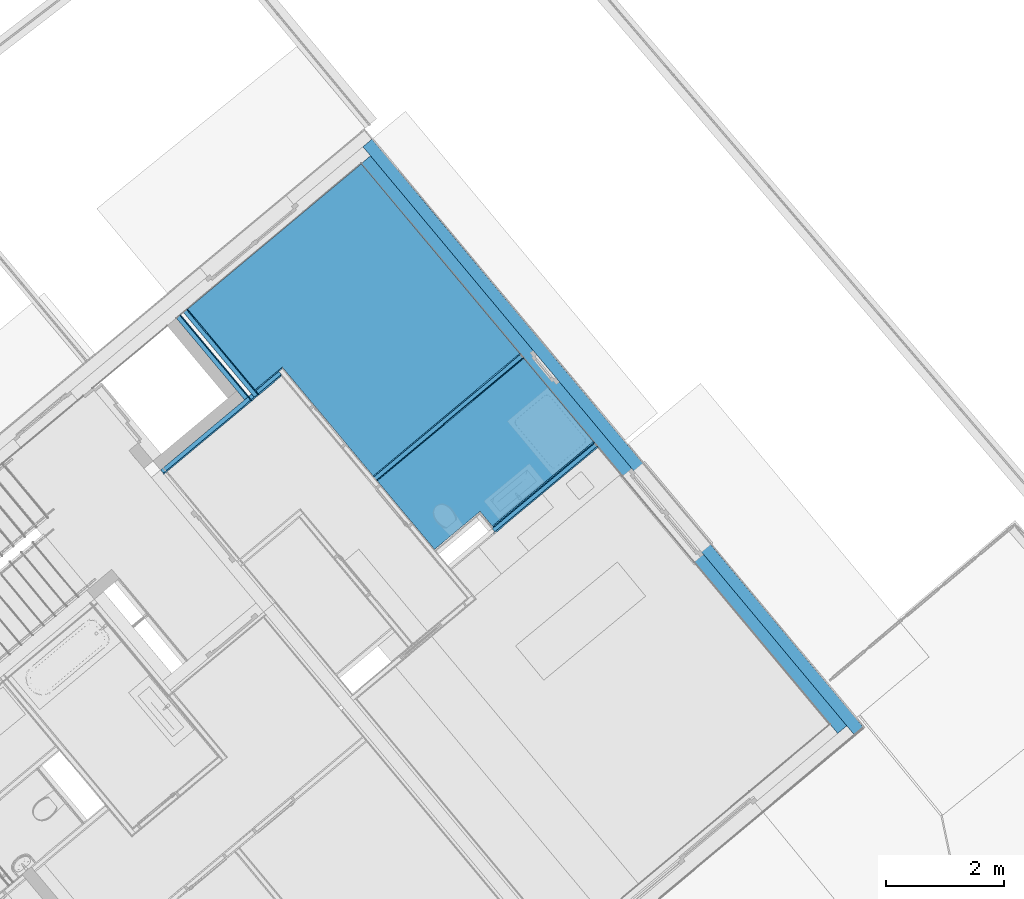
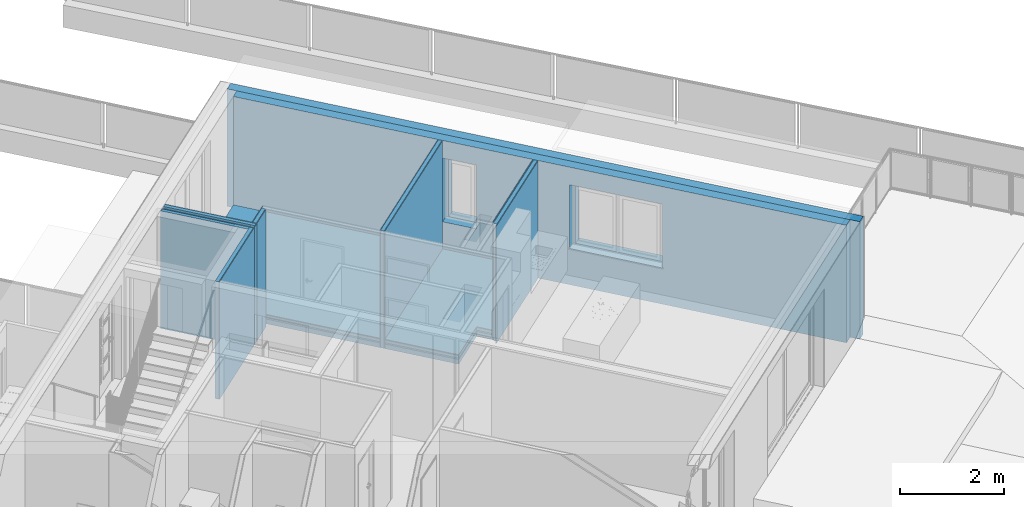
# One storey, part 45 of 67: 28 building element parts, 2 openings, 10 elements without a shape of their own.
"""IFC4 building model written with IfcOpenShell, lengths in metres."""

import ifcopenshell
import ifcopenshell.guid

model = None  # the IFC model being written
_history = None  # IfcOwnerHistory: only IFC2X3 demands one
_inside = {}  # id of a spatial element -> (the spatial element, [elements in it])
_under = {}  # id of a project, library or spatial element -> (it, [spatial elements below it])
_declared = {}  # id of a project -> (the project, [libraries it declares])
_typed = {}  # id of a type object -> (the type object, [elements of that type])
_made_of = {}  # id of a material, layer set ... -> (it, [elements and type objects made of it])


def new_model(schema):
    """Start an empty IFC model of exactly this schema.

    Asked for "IFC4X3", IfcOpenShell would pick the latest addendum, in which some entities
    have other attributes; the version numbers below select the first issue.
    IFC2X3 requires an IfcOwnerHistory on every rooted entity: one is made here for all.
    """
    global model, _history
    if schema == "IFC4X3":
        model = ifcopenshell.file(schema_version=(4, 3, 0, 0))
    else:
        model = ifcopenshell.file(schema=schema)
    _inside.clear()
    _under.clear()
    _declared.clear()
    _typed.clear()
    _made_of.clear()
    _history = None
    if model.schema == "IFC2X3":
        org = make("IfcOrganization", Name="unknown")
        user = make(
            "IfcPersonAndOrganization",
            ThePerson=make("IfcPerson", FamilyName="unknown"),
            TheOrganization=org,
        )
        app = make(
            "IfcApplication",
            ApplicationDeveloper=org,
            Version="unknown",
            ApplicationFullName="unknown",
            ApplicationIdentifier="unknown",
        )
        _history = make(
            "IfcOwnerHistory",
            OwningUser=user,
            OwningApplication=app,
            ChangeAction="ADDED",
            CreationDate=0,
        )
    return model


def make(cls, **values):
    """One entity of the class cls with the attributes given. An attribute that is None is left unset."""
    return model.create_entity(
        cls, **{name: value for name, value in values.items() if value is not None}
    )


def entity(cls, *values):
    """Any entity or typed value of the class cls, its attributes in the order of the schema. None: left unset."""
    e = model.create_entity(cls)
    for i, value in enumerate(values):
        if value is not None:
            e[i] = value
    return e


def rooted(cls, **values):
    """An entity with a GlobalId (a new one), such as an element, a storey or a relation."""
    return make(cls, GlobalId=ifcopenshell.guid.new(), OwnerHistory=_history, **values)


def si_unit(unit_type, name, prefix=None):
    """IfcSIUnit, for example si_unit("LENGTHUNIT", "METRE", prefix="MILLI")."""
    return make("IfcSIUnit", UnitType=unit_type, Prefix=prefix, Name=name)


def converted_unit(unit_type, name, factor, base, dimensions=None, offset=None):
    """IfcConversionBasedUnit, such as the inch: factor (a typed value) times the base unit."""
    return make(
        "IfcConversionBasedUnit"
        if offset is None
        else "IfcConversionBasedUnitWithOffset",
        ConversionOffset=offset,
        Dimensions=None
        if dimensions is None
        else entity("IfcDimensionalExponents", *dimensions),
        UnitType=unit_type,
        Name=name,
        ConversionFactor=make(
            "IfcMeasureWithUnit", ValueComponent=factor, UnitComponent=base
        ),
    )


def derived_unit(unit_type, elements):
    """IfcDerivedUnit: a product of units, each with its exponent."""
    return make(
        "IfcDerivedUnit",
        Elements=[
            make("IfcDerivedUnitElement", Unit=unit, Exponent=power)
            for unit, power in elements
        ],
        UnitType=unit_type,
    )


def assignment(units):
    """IfcUnitAssignment: the units of a project."""
    return None if units is None else make("IfcUnitAssignment", Units=units)


def point(xyz):
    """IfcCartesianPoint."""
    return None if xyz is None else make("IfcCartesianPoint", Coordinates=xyz)


def direction(xyz):
    """IfcDirection."""
    return None if xyz is None else make("IfcDirection", DirectionRatios=xyz)


def frame(location, z_axis=None, x_axis=None):
    """IfcAxis2Placement3D, a coordinate frame: its origin and axes. An axis left out is left unset."""
    return make(
        "IfcAxis2Placement3D",
        Location=point(location),
        Axis=direction(z_axis),
        RefDirection=direction(x_axis),
    )


def origin_with_axes():
    """The frame at (0, 0, 0) with the z axis (0, 0, 1) and the x axis (1, 0, 0) written out."""
    return frame((0.0, 0.0, 0.0), z_axis=(0.0, 0.0, 1.0), x_axis=(1.0, 0.0, 0.0))


def place(relative_to, where):
    """IfcLocalPlacement: puts the frame where relative to a parent placement (None: the world)."""
    return make(
        "IfcLocalPlacement", PlacementRelTo=relative_to, RelativePlacement=where
    )


def context(
    kind, dimensions, precision=None, world=None, true_north=None, identifier=None
):
    """IfcGeometricRepresentationContext, for example the 3D "Model" context."""
    return make(
        "IfcGeometricRepresentationContext",
        ContextIdentifier=identifier,
        ContextType=kind,
        CoordinateSpaceDimension=dimensions,
        Precision=precision,
        WorldCoordinateSystem=world,
        TrueNorth=true_north,
    )


def subcontext(parent, identifier, kind, view, scale=None):
    """IfcGeometricRepresentationSubContext, for example "Body" below "Model"."""
    return make(
        "IfcGeometricRepresentationSubContext",
        ContextIdentifier=identifier,
        ContextType=kind,
        ParentContext=parent,
        TargetScale=scale,
        TargetView=view,
    )


def project(units=None, contexts=None):
    """IfcProject with its units and contexts."""
    return rooted(
        "IfcProject",
        Name="project",
        RepresentationContexts=contexts,
        UnitsInContext=assignment(units),
    )


def spatial(cls, under=None, at=None, **own):
    """A site, building, storey or space (cls), placed at a placement, below another one or the project."""
    s = rooted(cls, ObjectPlacement=at, **own)
    if under is not None:
        _under.setdefault(under.id(), (under, []))[1].append(s)
    return s


def point_list(points):
    """IfcCartesianPointList2D or 3D."""
    cls = (
        "IfcCartesianPointList2D" if len(points[0]) == 2 else "IfcCartesianPointList3D"
    )
    return make(cls, CoordList=points)


def polygons(points, faces, closed=None, point_numbers=None):
    """IfcPolygonalFaceSet: a face is its outer loop, then its inner loops; points numbered from 1."""
    made = []
    for loops in faces:
        if len(loops) == 1:
            made.append(make("IfcIndexedPolygonalFace", CoordIndex=loops[0]))
        else:
            made.append(
                make(
                    "IfcIndexedPolygonalFaceWithVoids",
                    CoordIndex=loops[0],
                    InnerCoordIndices=loops[1:],
                )
            )
    return make(
        "IfcPolygonalFaceSet",
        Coordinates=point_list(points),
        Closed=closed,
        Faces=made,
        PnIndex=point_numbers,
    )


def shape(context_of_items, identifier, shape_type, items):
    """IfcShapeRepresentation: the items that make up one representation, for example the "Body"."""
    return make(
        "IfcShapeRepresentation",
        ContextOfItems=context_of_items,
        RepresentationIdentifier=identifier,
        RepresentationType=shape_type,
        Items=items,
    )


def material(Name=None, Category=None):
    """IfcMaterial."""
    return make("IfcMaterial", Name=Name, Category=Category)


def made_of(thing, what):
    """Note that an element or type object is made of a material, layer set ...; save() writes the relation."""
    if what is not None:
        _made_of.setdefault(what.id(), (what, []))[1].append(thing)
    return thing


def type_object(cls, material=None, **own):
    """A type object (cls), such as IfcWallType, which elements share."""
    return made_of(rooted(cls, **own), material)


def element(
    cls,
    number,
    at=None,
    inside=None,
    cuts=None,
    type_object=None,
    material=None,
    context=None,
    identifier="Body",
    shape_type=None,
    held_by="IfcProductDefinitionShape",
    body=None,
    shapes=None,
    **own,
):
    """One element of the class cls, such as IfcWall. Its Tag is "e" and its number.

    at: its placement. inside: the storey or other place that contains it. cuts: it is an
    opening in that element (IfcRelVoidsElement). A single representation is given by context,
    identifier, shape_type and body (its items); several are given by shapes. held_by: the class
    of the entity that holds the representations. save() writes the other relations.
    """
    e = rooted(cls, Tag="e%d" % number, ObjectPlacement=at, **own)
    if body is not None:
        shapes = [shape(context, identifier, shape_type, body)]
    if shapes is not None:
        e.Representation = make(held_by, Representations=shapes)
    if inside is not None:
        _inside.setdefault(inside.id(), (inside, []))[1].append(e)
    if cuts is not None:
        rooted(
            "IfcRelVoidsElement", RelatingBuildingElement=cuts, RelatedOpeningElement=e
        )
    if type_object is not None:
        _typed.setdefault(type_object.id(), (type_object, []))[1].append(e)
    return made_of(e, material)


def aggregate(whole, parts):
    """IfcRelAggregates: a whole, such as a stair, and the parts it consists of."""
    return rooted("IfcRelAggregates", RelatingObject=whole, RelatedObjects=parts)


def save(model, path):
    """Write the relations noted so far, then the file.

    IfcRelAggregates (storeys below a building ...), IfcRelContainedInSpatialStructure (elements
    in a storey), IfcRelDefinesByType, IfcRelAssociatesMaterial and IfcRelDeclares: one each for
    every whole, place, type object, material and project.
    """
    for whole, parts in _under.values():
        aggregate(whole, parts)
    for where, things in _inside.values():
        rooted(
            "IfcRelContainedInSpatialStructure",
            RelatedElements=things,
            RelatingStructure=where,
        )
    for kind, things in _typed.values():
        rooted("IfcRelDefinesByType", RelatedObjects=things, RelatingType=kind)
    for what, things in _made_of.values():
        rooted("IfcRelAssociatesMaterial", RelatedObjects=things, RelatingMaterial=what)
    for by, libraries in _declared.values():
        rooted("IfcRelDeclares", RelatingContext=by, RelatedDefinitions=libraries)
    model.write(path)


model = new_model("IFC4")

# Units and contexts
model_context = context("Model", 3, precision=1e-05, world=origin_with_axes(), true_north=direction((0.0, 1.0)))
body_context = subcontext(model_context, "Body", "Model", "MODEL_VIEW")
ifc_project = project(units=[si_unit("LENGTHUNIT", "METRE"), si_unit("AREAUNIT", "SQUARE_METRE"), si_unit("VOLUMEUNIT", "CUBIC_METRE"), converted_unit("PLANEANGLEUNIT", "DEGREE", entity("IfcPlaneAngleMeasure", 0.0174532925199), si_unit("PLANEANGLEUNIT", "RADIAN"), dimensions=[0, 0, 0, 0, 0, 0, 0]), converted_unit("TIMEUNIT", "Year", entity("IfcTimeMeasure", 31556926.0), si_unit("TIMEUNIT", "SECOND"), dimensions=[0, 0, 1, 0, 0, 0, 0]), si_unit("MASSUNIT", "GRAM", prefix="KILO"), si_unit("THERMODYNAMICTEMPERATUREUNIT", "DEGREE_CELSIUS"), si_unit("LUMINOUSINTENSITYUNIT", "LUMEN"), si_unit("ENERGYUNIT", "JOULE", prefix="MEGA"), derived_unit("THERMALCONDUCTANCEUNIT", [(si_unit("POWERUNIT", "WATT"), 1), (si_unit("LENGTHUNIT", "METRE"), -1), (si_unit("THERMODYNAMICTEMPERATUREUNIT", "KELVIN"), -1)]), derived_unit("SPECIFICHEATCAPACITYUNIT", [(si_unit("ENERGYUNIT", "JOULE"), 1), (si_unit("MASSUNIT", "GRAM", prefix="KILO"), -1), (si_unit("THERMODYNAMICTEMPERATUREUNIT", "KELVIN"), -1)]), derived_unit("MASSDENSITYUNIT", [(si_unit("MASSUNIT", "GRAM", prefix="KILO"), 1), (si_unit("VOLUMEUNIT", "CUBIC_METRE"), -1)])], contexts=[model_context])

# Site, building, storey
site_placement = place(None, frame((-0.00153261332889, -0.00661245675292, 0.0), z_axis=(0.0, 0.0, 1.0), x_axis=(1.0, 0.0, 0.0)))
site = spatial("IfcSite", under=ifc_project, at=site_placement, Name="Site", CompositionType="ELEMENT")
building_placement = place(site_placement, origin_with_axes())
building = spatial("IfcBuilding", under=site, at=building_placement, Name="Building", CompositionType="ELEMENT")
storey_placement = place(building_placement, frame((0.0, 0.0, -0.22), z_axis=(0.0, 0.0, 1.0), x_axis=(1.0, 0.0, 0.0)))
storey = spatial("IfcBuildingStorey", under=building, at=storey_placement, Name="EG", CompositionType="ELEMENT", Elevation=-0.22)

# Wall, building element parts
wall_type_1 = type_object("IfcWallType", Name="LB 9,0 cm einfache Vorsatzschale  90", PredefinedType="NOTDEFINED")
wall_1_placement = place(storey_placement, frame((2.91105147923, 25.8183705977, 0.0), z_axis=(0.0, 0.0, 1.0), x_axis=(-0.641215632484, 0.767360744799, 0.0)))
wall_1 = element("IfcWall", 1, at=wall_1_placement, inside=storey, type_object=wall_type_1, Name="Wand-006", PredefinedType="NOTDEFINED")
ifc_material_1 = material(Name="Mineralwolle weich")
building_element_part_1_placement = place(wall_1_placement, origin_with_axes())
building_element_part_1 = element("IfcBuildingElementPart", 2, at=building_element_part_1_placement, material=ifc_material_1, Name="Mineralwolle weich", PredefinedType="NOTDEFINED", context=body_context, shape_type="Tessellation", body=[
    polygons([(1.79614364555, -0.075, 2.76), (6.98080551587e-07, -0.075, 2.76), (6.98080551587e-07, -0.075, 0.0), (1.79614364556, -0.075, 0.0), (0.0, 0.0, 2.76), (1.79614424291, 0.0, 2.76), (0.0, 0.0, 0.0), (1.79614424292, 0.0, 0.0)], [[[1, 2, 3, 4]], [[5, 2, 1, 6]], [[2, 5, 7, 3]], [[7, 8, 4, 3]], [[6, 1, 4, 8]], [[5, 6, 8, 7]]], closed=True),
])
ifc_material_2 = material(Name="Gipskarton")
building_element_part_2_placement = place(wall_1_placement, origin_with_axes())
building_element_part_2 = element("IfcBuildingElementPart", 3, at=building_element_part_2_placement, material=ifc_material_2, Name="Gipskarton", PredefinedType="NOTDEFINED", context=body_context, shape_type="Tessellation", body=[
    polygons([(1.79614352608, -0.09, 2.76), (-0.0749991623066, -0.09, 2.76), (-0.0749991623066, -0.09, 0.0), (1.79614352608, -0.09, 0.0), (-0.0749993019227, -0.075, 2.76), (1.79614364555, -0.075, 2.76), (-0.0749993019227, -0.075, 0.0), (1.79614364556, -0.075, 0.0)], [[[1, 2, 3, 4]], [[5, 2, 1, 6]], [[2, 5, 7, 3]], [[7, 8, 4, 3]], [[6, 1, 4, 8]], [[5, 6, 8, 7]]], closed=True),
])
aggregate(wall_1, [building_element_part_1, building_element_part_2])

wall_2_placement = place(storey_placement, frame((1.49097783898, 24.6317179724, 0.0), z_axis=(0.0, 0.0, 1.0), x_axis=(0.767354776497, 0.641222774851, 0.0)))
wall_2 = element("IfcWall", 4, at=wall_2_placement, inside=storey, type_object=wall_type_1, Name="Wand-006", PredefinedType="NOTDEFINED")
building_element_part_3_placement = place(wall_2_placement, origin_with_axes())
building_element_part_3 = element("IfcBuildingElementPart", 5, at=building_element_part_3_placement, material=ifc_material_1, Name="Mineralwolle weich", PredefinedType="NOTDEFINED", context=body_context, shape_type="Tessellation", body=[
    polygons([(1.92560898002, 0.0, 2.76), (1.92560828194, -0.075, 2.76), (1.92560828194, -0.075, 0.0), (1.92560898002, 0.0, 0.0), (0.0, -0.075, 2.76), (0.0, 0.0, 2.76), (0.0, -0.075, 0.0), (0.0, 0.0, 0.0)], [[[1, 2, 3, 4]], [[5, 2, 1, 6]], [[2, 5, 7, 3]], [[4, 3, 7, 8]], [[6, 1, 4, 8]], [[5, 6, 8, 7]]], closed=True),
])
building_element_part_4_placement = place(wall_2_placement, origin_with_axes())
building_element_part_4 = element("IfcBuildingElementPart", 6, at=building_element_part_4_placement, material=ifc_material_2, Name="Gipskarton", PredefinedType="NOTDEFINED", context=body_context, shape_type="Tessellation", body=[
    polygons([(1.94060828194, -0.075, 2.76), (1.94060814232, -0.09, 2.76), (1.94060814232, -0.09, 0.0), (1.94060828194, -0.075, 0.0), (0.0, -0.09, 2.76), (0.0, -0.075, 2.76), (0.0, -0.09, 0.0), (0.0, -0.075, 0.0)], [[[1, 2, 3, 4]], [[5, 2, 1, 6]], [[2, 5, 7, 3]], [[4, 3, 7, 8]], [[6, 1, 4, 8]], [[5, 6, 8, 7]]], closed=True),
])
aggregate(wall_2, [building_element_part_3, building_element_part_4])

wall_3_placement = place(storey_placement, frame((2.98011276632, 25.8760801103, 0.0), z_axis=(0.0, 0.0, 1.0), x_axis=(0.767354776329, 0.641222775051, 0.0)))
wall_3 = element("IfcWall", 7, at=wall_3_placement, inside=storey, type_object=wall_type_1, Name="Wand-006", PredefinedType="NOTDEFINED")
building_element_part_5_placement = place(wall_3_placement, origin_with_axes())
building_element_part_5 = element("IfcBuildingElementPart", 8, at=building_element_part_5_placement, material=ifc_material_1, Name="Mineralwolle weich", PredefinedType="NOTDEFINED", context=body_context, shape_type="Tessellation", body=[
    polygons([(0.0647565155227, 0.0, 2.76), (0.0647552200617, -0.075, 2.76), (0.0647552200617, -0.075, 0.0), (0.0647565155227, 0.0, 0.0), (0.0, -0.075, 2.76), (0.0, 0.0, 2.76), (0.0, -0.075, 0.0), (0.0, 0.0, 0.0)], [[[1, 2, 3, 4]], [[5, 2, 1, 6]], [[2, 5, 7, 3]], [[4, 3, 7, 8]], [[6, 1, 4, 8]], [[5, 6, 8, 7]]], closed=True),
])
building_element_part_6_placement = place(wall_3_placement, origin_with_axes())
building_element_part_6 = element("IfcBuildingElementPart", 9, at=building_element_part_6_placement, material=ifc_material_2, Name="Gipskarton", PredefinedType="NOTDEFINED", context=body_context, shape_type="Tessellation", body=[
    polygons([(0.139755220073, -0.075, 2.76), (0.139754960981, -0.09, 2.76), (0.139754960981, -0.09, 0.0), (0.139755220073, -0.075, 0.0), (0.0, -0.09, 2.76), (0.0, -0.075, 2.76), (0.0, -0.09, 0.0), (0.0, -0.075, 0.0)], [[[1, 2, 3, 4]], [[5, 2, 1, 6]], [[2, 5, 7, 3]], [[4, 3, 7, 8]], [[6, 1, 4, 8]], [[5, 6, 8, 7]]], closed=True),
])
aggregate(wall_3, [building_element_part_5, building_element_part_6])

wall_4_placement = place(storey_placement, frame((3.08751284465, 25.8485405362, 0.0), z_axis=(0.0, 0.0, 1.0), x_axis=(-0.64120952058, 0.767365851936, 0.0)))
wall_4 = element("IfcWall", 10, at=wall_4_placement, inside=storey, type_object=wall_type_1, Name="Wand-006", PredefinedType="NOTDEFINED")
building_element_part_7_placement = place(wall_4_placement, origin_with_axes())
building_element_part_7 = element("IfcBuildingElementPart", 11, at=building_element_part_7_placement, material=ifc_material_1, Name="Mineralwolle weich", PredefinedType="NOTDEFINED", context=body_context, shape_type="Tessellation", body=[
    polygons([(1.8861415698, -0.075, 2.76), (0.0150012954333, -0.075, 2.76), (0.0150012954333, -0.075, 0.0), (1.88614156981, -0.075, 0.0), (0.0149999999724, 0.0, 2.76), (1.8861415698, 0.0, 2.76), (0.0149999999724, 0.0, 0.0), (1.88614156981, 0.0, 0.0)], [[[1, 2, 3, 4]], [[5, 2, 1, 6]], [[2, 5, 7, 3]], [[7, 8, 4, 3]], [[6, 1, 4, 8]], [[5, 6, 8, 7]]], closed=True),
])
building_element_part_8_placement = place(wall_4_placement, origin_with_axes())
building_element_part_8 = element("IfcBuildingElementPart", 12, at=building_element_part_8_placement, material=ifc_material_2, Name="Gipskarton", PredefinedType="NOTDEFINED", context=body_context, shape_type="Tessellation", body=[
    polygons([(1.8861415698, -0.09, 2.76), (0.0, -0.09, 2.76), (0.0, -0.09, 0.0), (1.88614156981, -0.09, 0.0), (0.0, -0.075, 2.76), (1.8861415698, -0.075, 2.76), (0.0, -0.075, 0.0), (1.88614156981, -0.075, 0.0)], [[[1, 2, 3, 4]], [[5, 2, 1, 6]], [[2, 5, 7, 3]], [[7, 8, 4, 3]], [[6, 1, 4, 8]], [[5, 6, 8, 7]]], closed=True),
])
aggregate(wall_4, [building_element_part_7, building_element_part_8])

wall_type_2 = type_object("IfcWallType", Name="IW LB 01 Leichtbautrennwand einfach 10,5 cm 105", PredefinedType="NOTDEFINED")
wall_5_placement = place(storey_placement, frame((5.08746071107, 24.5291530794, 0.0), z_axis=(0.0, 0.0, 1.0), x_axis=(0.767365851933, 0.641209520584, 0.0)))
wall_5 = element("IfcWall", 13, at=wall_5_placement, inside=storey, type_object=wall_type_2, Name="Wand-012", PredefinedType="NOTDEFINED")
building_element_part_9_placement = place(wall_5_placement, origin_with_axes())
building_element_part_9 = element("IfcBuildingElementPart", 14, at=building_element_part_9_placement, material=ifc_material_2, Name="Gipskarton", PredefinedType="NOTDEFINED", context=body_context, shape_type="Tessellation", body=[
    polygons([(3.23167648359, 0.0, 2.76), (3.23167648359, -0.015, 2.76), (3.23167648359, -0.015, 0.0), (3.23167648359, 0.0, 0.0), (0.0, -0.015, 2.76), (0.0, 0.0, 2.76), (0.0, -0.015, 0.0), (0.0, 0.0, 0.0)], [[[1, 2, 3, 4]], [[5, 2, 1, 6]], [[2, 5, 7, 3]], [[8, 4, 3, 7]], [[6, 1, 4, 8]], [[5, 6, 8, 7]]], closed=True),
])
building_element_part_10_placement = place(wall_5_placement, origin_with_axes())
building_element_part_10 = element("IfcBuildingElementPart", 15, at=building_element_part_10_placement, material=ifc_material_1, Name="Mineralwolle weich", PredefinedType="NOTDEFINED", context=body_context, shape_type="Tessellation", body=[
    polygons([(3.23167648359, -0.015, 2.76), (3.23167648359, -0.09, 2.76), (3.23167648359, -0.09, 0.0), (3.23167648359, -0.015, 0.0), (0.0, -0.09, 2.76), (0.0, -0.015, 2.76), (0.0, -0.09, 0.0), (0.0, -0.015, 0.0)], [[[1, 2, 3, 4]], [[5, 2, 1, 6]], [[2, 5, 7, 3]], [[8, 4, 3, 7]], [[6, 1, 4, 8]], [[5, 6, 8, 7]]], closed=True),
])
building_element_part_11_placement = place(wall_5_placement, origin_with_axes())
building_element_part_11 = element("IfcBuildingElementPart", 16, at=building_element_part_11_placement, material=ifc_material_2, Name="Gipskarton", PredefinedType="NOTDEFINED", context=body_context, shape_type="Tessellation", body=[
    polygons([(3.23167648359, -0.09, 0.0), (3.23167648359, -0.09, 2.76), (3.23167648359, -0.105, 2.76), (3.23167648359, -0.105, 0.0), (0.0, -0.09, 0.0), (0.0, -0.09, 2.76), (0.0, -0.105, 2.76), (0.0, -0.105, 0.0)], [[[1, 2, 3, 4]], [[5, 6, 2, 1]], [[6, 7, 3, 2]], [[4, 3, 7, 8]], [[8, 5, 1, 4]], [[8, 7, 6, 5]]], closed=True),
])
aggregate(wall_5, [building_element_part_9, building_element_part_10, building_element_part_11])

wall_type_3 = type_object("IfcWallType", Name="LB 13 cm doppelte Vorsatzschale Bad  120", PredefinedType="NOTDEFINED")
wall_6_placement = place(storey_placement, frame((7.01975244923, 23.6147528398, 0.0), z_axis=(0.0, 0.0, 1.0), x_axis=(0.767365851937, 0.641209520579, 0.0)))
wall_6 = element("IfcWall", 17, at=wall_6_placement, inside=storey, type_object=wall_type_3, Name="Wand-013", PredefinedType="NOTDEFINED")
building_element_part_12_placement = place(wall_6_placement, origin_with_axes())
building_element_part_12 = element("IfcBuildingElementPart", 18, at=building_element_part_12_placement, material=ifc_material_2, Name="Gipskarton", PredefinedType="NOTDEFINED", context=body_context, shape_type="Tessellation", body=[
    polygons([(2.33522392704, 0.0, 2.76), (2.33522392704, -0.015, 2.76), (2.33522392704, -0.015, 0.0), (2.33522392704, 0.0, 0.0), (0.104964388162, -0.015, 2.76), (0.105000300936, 0.0, 2.76), (0.104964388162, -0.015, 0.0), (0.105000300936, 0.0, 0.0)], [[[1, 2, 3, 4]], [[5, 2, 1, 6]], [[2, 5, 7, 3]], [[8, 4, 3, 7]], [[6, 1, 4, 8]], [[5, 6, 8, 7]]], closed=True),
])
building_element_part_13_placement = place(wall_6_placement, origin_with_axes())
building_element_part_13 = element("IfcBuildingElementPart", 19, at=building_element_part_13_placement, material=ifc_material_2, Name="Gipskarton", PredefinedType="NOTDEFINED", context=body_context, shape_type="Tessellation", body=[
    polygons([(2.33522392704, -0.015, 2.76), (2.33522392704, -0.03, 2.76), (2.33522392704, -0.03, 0.0), (2.33522392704, -0.015, 0.0), (0.0899284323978, -0.03, 2.76), (0.0899643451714, -0.015, 2.76), (0.0899284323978, -0.03, 0.0), (0.0899643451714, -0.015, 0.0)], [[[1, 2, 3, 4]], [[5, 2, 1, 6]], [[2, 5, 7, 3]], [[8, 4, 3, 7]], [[6, 1, 4, 8]], [[5, 6, 8, 7]]], closed=True),
])
building_element_part_14_placement = place(wall_6_placement, origin_with_axes())
building_element_part_14 = element("IfcBuildingElementPart", 20, at=building_element_part_14_placement, material=ifc_material_1, Name="Mineralwolle weich", PredefinedType="NOTDEFINED", context=body_context, shape_type="Tessellation", body=[
    polygons([(2.33522392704, -0.03, 2.76), (2.33522392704, -0.105, 2.76), (2.33522392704, -0.105, 0.0), (2.33522392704, -0.03, 0.0), (0.0747488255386, -0.105, 2.76), (0.0749283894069, -0.03, 2.76), (0.0747488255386, -0.105, 0.0), (0.0749283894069, -0.03, 0.0)], [[[1, 2, 3, 4]], [[5, 2, 1, 6]], [[2, 5, 7, 3]], [[8, 4, 3, 7]], [[6, 1, 4, 8]], [[5, 6, 8, 7]]], closed=True),
])
ifc_material_3 = material(Name="Gipsputz")
building_element_part_15_placement = place(wall_6_placement, origin_with_axes())
building_element_part_15 = element("IfcBuildingElementPart", 21, at=building_element_part_15_placement, material=ifc_material_3, Name="Gipsputz", PredefinedType="NOTDEFINED", context=body_context, shape_type="Tessellation", body=[
    polygons([(2.33522392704, -0.105, 2.76), (2.33522392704, -0.12, 2.76), (2.33522392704, -0.12, 0.0), (2.33522392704, -0.105, 0.0), (-0.00028730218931, -0.12, 2.76), (-0.000251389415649, -0.105, 2.76), (-0.00028730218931, -0.12, 0.0), (-0.000251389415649, -0.105, 0.0)], [[[1, 2, 3, 4]], [[5, 2, 1, 6]], [[2, 5, 7, 3]], [[8, 4, 3, 7]], [[6, 1, 4, 8]], [[5, 6, 8, 7]]], closed=True),
])
aggregate(wall_6, [building_element_part_12, building_element_part_13, building_element_part_14, building_element_part_15])

# Wall, openings, building element parts
wall_type_4 = type_object("IfcWallType", Name="AW EG 420", PredefinedType="NOTDEFINED")
wall_7_placement = place(storey_placement, frame((4.939440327, 30.401277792, 0.0), z_axis=(0.0, 0.0, 1.0), x_axis=(0.641209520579, -0.767365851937, 0.0)))
wall_7 = element("IfcWall", 22, at=wall_7_placement, inside=storey, type_object=wall_type_4, Name="Wand-002", PredefinedType="NOTDEFINED")
opening_1_placement = place(wall_7_placement, frame((8.25265654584, 0.0, 0.85), z_axis=(0.0, 0.0, 1.0), x_axis=(1.0, 0.0, 0.0)))
element("IfcOpeningElement", 23, at=opening_1_placement, cuts=wall_7, Name="Fenster-001", context=body_context, identifier="Reference", shape_type="Tessellation", body=[
    polygons([(-0.9, -0.215, 1.45), (0.9, -0.215, 1.45), (0.9, 6.4916246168, 1.45), (-0.9, 6.4916246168, 1.45), (0.9, -0.215, 0.0), (-0.9, -0.215, 0.0), (-0.95, -0.215, 0.0), (-0.95, -0.215, 1.5), (0.95, -0.215, 1.5), (0.95, -0.215, 0.0), (0.9, 6.4916246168, 0.0), (-0.9, 6.4916246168, 0.0), (0.95, -6.9116246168, 0.0), (-0.95, -6.9116246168, 0.0), (-0.95, -6.9116246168, 1.5), (0.95, -6.9116246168, 1.5)], [[[1, 2, 3, 4]], [[5, 2, 1, 6, 7, 8, 9, 10]], [[2, 5, 11, 3]], [[3, 11, 12, 4]], [[6, 1, 4, 12]], [[6, 12, 11, 5, 10, 13, 14, 7]], [[8, 7, 14, 15]], [[9, 8, 15, 16]], [[10, 9, 16, 13]], [[15, 14, 13, 16]]], closed=True),
])
opening_2_placement = place(wall_7_placement, frame((5.0517483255, 0.0, 0.85), z_axis=(0.0, 0.0, 1.0), x_axis=(1.0, 0.0, 0.0)))
element("IfcOpeningElement", 24, at=opening_2_placement, cuts=wall_7, Name="Fenster-001", context=body_context, identifier="Reference", shape_type="Tessellation", body=[
    polygons([(-0.3, -0.215, 1.45), (0.3, -0.215, 1.45), (0.3, 6.4916246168, 1.45), (-0.3, 6.4916246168, 1.45), (0.3, -0.215, 0.0), (-0.3, -0.215, 0.0), (-0.35, -0.215, 0.0), (-0.35, -0.215, 1.5), (0.35, -0.215, 1.5), (0.35, -0.215, 0.0), (0.3, 6.4916246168, 0.0), (-0.3, 6.4916246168, 0.0), (0.35, -6.9116246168, 0.0), (-0.35, -6.9116246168, 0.0), (-0.35, -6.9116246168, 1.5), (0.35, -6.9116246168, 1.5)], [[[1, 2, 3, 4]], [[5, 2, 1, 6, 7, 8, 9, 10]], [[2, 5, 11, 3]], [[3, 11, 12, 4]], [[6, 1, 4, 12]], [[6, 12, 11, 5, 10, 13, 14, 7]], [[8, 7, 14, 15]], [[9, 8, 15, 16]], [[10, 9, 16, 13]], [[15, 14, 13, 16]]], closed=True),
])
ifc_material_4 = material(Name="EPS 1")
building_element_part_16_placement = place(wall_7_placement, origin_with_axes())
building_element_part_16 = element("IfcBuildingElementPart", 25, at=building_element_part_16_placement, material=ifc_material_4, Name="EPS 1", PredefinedType="NOTDEFINED", context=body_context, shape_type="Tessellation", body=[
    polygons([(0.215, -0.215, 2.76), (0.215, -0.215, 0.0), (13.1763326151, -0.215, 0.0), (13.1763326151, -0.215, 2.76), (7.35265654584, -0.215, 2.3), (9.15265654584, -0.215, 2.3), (9.15265654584, -0.215, 0.85), (7.35265654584, -0.215, 0.85), (4.7517483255, -0.215, 0.85), (4.7517483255, -0.215, 2.3), (5.3517483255, -0.215, 2.3), (5.3517483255, -0.215, 0.85), (0.215, -0.015, 2.76), (0.215, -0.015, 0.0), (13.1296371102, -0.015, 0.0), (13.1762104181, -0.0273602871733, 0.0), (13.1762104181, -0.0273602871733, 0.374498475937), (13.1762023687, -0.015, 0.378997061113), (13.1762023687, -0.015, 2.76), (9.15265654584, -0.015, 2.3), (7.35265654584, -0.015, 2.3), (9.15265654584, -0.015, 0.85), (7.35265654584, -0.015, 0.85), (4.7517483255, -0.015, 0.85), (4.7517483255, -0.015, 2.3), (5.3517483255, -0.015, 2.3), (5.3517483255, -0.015, 0.85), (13.1296371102, -0.015, 0.378851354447)], [[[1, 2, 3, 4], [5, 6, 7, 8], [9, 10, 11, 12]], [[13, 14, 2, 1]], [[14, 15, 16, 3, 2]], [[16, 17, 18, 19, 4, 3]], [[13, 1, 4, 19]], [[20, 6, 5, 21]], [[22, 7, 6, 20]], [[23, 8, 7, 22]], [[21, 5, 8, 23]], [[24, 25, 10, 9]], [[25, 26, 11, 10]], [[26, 27, 12, 11]], [[27, 24, 9, 12]], [[28, 15, 14, 13, 19, 18], [22, 20, 21, 23], [24, 27, 26, 25]], [[15, 28, 17, 16]], [[28, 18, 17]]], closed=True),
])
ifc_material_5 = material(Name="Stahlbeton Wand")
building_element_part_17_placement = place(wall_7_placement, origin_with_axes())
building_element_part_17 = element("IfcBuildingElementPart", 26, at=building_element_part_17_placement, material=ifc_material_5, Name="Stahlbeton Wand", PredefinedType="NOTDEFINED", context=body_context, shape_type="Tessellation", body=[
    polygons([(0.414999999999, -0.415, 0.0), (12.976462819, -0.415, 0.0), (12.976462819, -0.415, 2.76), (0.414999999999, -0.415, 2.76), (7.30265654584, -0.415, 2.35), (9.20265654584, -0.415, 2.35), (9.20265654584, -0.415, 0.85), (7.30265654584, -0.415, 0.85), (4.7017483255, -0.415, 0.85), (4.7017483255, -0.415, 2.35), (5.4017483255, -0.415, 2.35), (5.4017483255, -0.415, 0.85), (0.415, -0.215, 0.0), (12.9763325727, -0.215, 0.0), (12.9763325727, -0.215, 2.76), (0.415, -0.215, 2.76), (9.20265654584, -0.215, 2.35), (7.30265654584, -0.215, 2.35), (9.20265654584, -0.215, 0.85), (7.30265654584, -0.215, 0.85), (4.7017483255, -0.215, 0.85), (4.7017483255, -0.215, 2.35), (5.4017483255, -0.215, 2.35), (5.4017483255, -0.215, 0.85)], [[[1, 2, 3, 4], [5, 6, 7, 8], [9, 10, 11, 12]], [[13, 14, 2, 1]], [[14, 15, 3, 2]], [[4, 3, 15, 16]], [[13, 1, 4, 16]], [[17, 6, 5, 18]], [[19, 7, 6, 17]], [[20, 8, 7, 19]], [[18, 5, 8, 20]], [[21, 22, 10, 9]], [[22, 23, 11, 10]], [[23, 24, 12, 11]], [[24, 21, 9, 12]], [[16, 15, 14, 13], [19, 17, 18, 20], [21, 24, 23, 22]]], closed=True),
])
aggregate(wall_7, [building_element_part_16, building_element_part_17])

# Wall, building element parts
wall_8_placement = place(storey_placement, frame((3.02017821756, 25.9291230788, 0.0), z_axis=(0.0, 0.0, 1.0), x_axis=(0.767365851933, 0.641209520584, 0.0)))
wall_8 = element("IfcWall", 27, at=wall_8_placement, inside=storey, type_object=wall_type_2, Name="Wand-012", PredefinedType="NOTDEFINED")
building_element_part_18_placement = place(wall_8_placement, origin_with_axes())
building_element_part_18 = element("IfcBuildingElementPart", 28, at=building_element_part_18_placement, material=ifc_material_2, Name="Gipskarton", PredefinedType="NOTDEFINED", context=body_context, shape_type="Tessellation", body=[
    polygons([(0.673687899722, 0.0, 2.76), (0.673687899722, -0.015, 2.76), (0.673687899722, -0.015, 0.0), (0.673687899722, 0.0, 0.0), (0.0900000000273, -0.015, 2.76), (0.0900000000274, 0.0, 2.76), (0.0900000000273, -0.015, 0.0), (0.0900000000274, 0.0, 0.0)], [[[1, 2, 3, 4]], [[5, 2, 1, 6]], [[2, 5, 7, 3]], [[4, 3, 7, 8]], [[6, 1, 4, 8]], [[5, 6, 8, 7]]], closed=True),
])
building_element_part_19_placement = place(wall_8_placement, origin_with_axes())
building_element_part_19 = element("IfcBuildingElementPart", 29, at=building_element_part_19_placement, material=ifc_material_1, Name="Mineralwolle weich", PredefinedType="NOTDEFINED", context=body_context, shape_type="Tessellation", body=[
    polygons([(0.598687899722, -0.015, 2.76), (0.598687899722, -0.09, 2.76), (0.598687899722, -0.09, 0.0), (0.598687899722, -0.015, 0.0), (0.090000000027, -0.09, 2.76), (0.0900000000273, -0.015, 2.76), (0.090000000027, -0.09, 0.0), (0.0900000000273, -0.015, 0.0)], [[[1, 2, 3, 4]], [[5, 2, 1, 6]], [[2, 5, 7, 3]], [[4, 3, 7, 8]], [[6, 1, 4, 8]], [[5, 6, 8, 7]]], closed=True),
])
building_element_part_20_placement = place(wall_8_placement, origin_with_axes())
building_element_part_20 = element("IfcBuildingElementPart", 30, at=building_element_part_20_placement, material=ifc_material_2, Name="Gipskarton", PredefinedType="NOTDEFINED", context=body_context, shape_type="Tessellation", body=[
    polygons([(0.583687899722, -0.09, 2.76), (0.583687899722, -0.105, 2.76), (0.583687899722, -0.105, 0.0), (0.583687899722, -0.09, 0.0), (0.0900000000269, -0.105, 2.76), (0.090000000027, -0.09, 2.76), (0.0900000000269, -0.105, 0.0), (0.090000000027, -0.09, 0.0)], [[[1, 2, 3, 4]], [[5, 2, 1, 6]], [[2, 5, 7, 3]], [[4, 3, 7, 8]], [[6, 1, 4, 8]], [[5, 6, 8, 7]]], closed=True),
])
aggregate(wall_8, [building_element_part_18, building_element_part_19, building_element_part_20])

# Covering, building element parts
covering_type_1 = type_object("IfcCoveringType", Name="DE 01 Decke Wohnung/Wohnung Fließen 220", PredefinedType="NOTDEFINED")
covering_1_placement = place(storey_placement, frame((5.15478771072, 24.448579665, 0.22), z_axis=(0.0, 0.0, 1.0), x_axis=(1.0, 0.0, 0.0)))
covering_1 = element("IfcCovering", 31, at=covering_1_placement, inside=storey, type_object=covering_type_1, Name="Decke-001", PredefinedType="NOTDEFINED")
ifc_material_6 = material(Name="Fliesen")
building_element_part_21_placement = place(covering_1_placement, origin_with_axes())
building_element_part_21 = element("IfcBuildingElementPart", 32, at=building_element_part_21_placement, material=ifc_material_6, Name="Fliesen", PredefinedType="NOTDEFINED", context=body_context, shape_type="Tessellation", body=[
    polygons([(0.969800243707, -1.16060595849, 0.0), (0.969800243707, -1.16060595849, -0.015), (1.71585376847, -0.537204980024, -0.015), (1.71585376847, -0.537204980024, 0.0), (0.0, 0.0, 0.0), (0.0, 0.0, -0.015), (2.47987817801, 2.07218172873, -0.015), (3.65693583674, 0.66354098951, -0.015), (1.94553838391, -0.766499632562, -0.015), (1.75805597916, -0.54103567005, -0.015), (1.75811086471, -0.540989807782, -0.015), (1.73903554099, -0.518161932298, -0.015), (1.71596857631, -0.537343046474, -0.015), (1.71596857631, -0.537343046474, 0.0), (1.73903554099, -0.518161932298, 0.0), (1.75811086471, -0.540989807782, 0.0), (1.75805597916, -0.54103567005, 0.0), (1.94553838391, -0.766499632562, 0.0), (3.65693583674, 0.66354098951, 0.0), (2.47987817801, 2.07218172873, 0.0)], [[[1, 2, 3, 4]], [[2, 1, 5, 6]], [[3, 2, 6, 7, 8, 9, 10, 11, 12, 13]], [[13, 14, 4, 3]], [[1, 4, 14, 15, 16, 17, 18, 19, 20, 5]], [[6, 5, 20, 7]], [[19, 8, 7, 20]], [[18, 9, 8, 19]], [[9, 18, 17, 10]], [[10, 17, 16, 11]], [[16, 15, 12, 11]], [[14, 13, 12, 15]]], closed=True),
])
ifc_material_7 = material(Name="Estrich")
building_element_part_22_placement = place(covering_1_placement, origin_with_axes())
building_element_part_22 = element("IfcBuildingElementPart", 33, at=building_element_part_22_placement, material=ifc_material_7, Name="Estrich", PredefinedType="NOTDEFINED", context=body_context, shape_type="Tessellation", body=[
    polygons([(0.969800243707, -1.16060595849, -0.015), (0.969800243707, -1.16060595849, -0.08), (1.71585376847, -0.537204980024, -0.08), (1.71585376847, -0.537204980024, -0.015), (0.0, 0.0, -0.015), (0.0, 0.0, -0.08), (2.47987817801, 2.07218172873, -0.08), (3.65693583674, 0.66354098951, -0.08), (1.94553838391, -0.766499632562, -0.08), (1.75805597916, -0.54103567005, -0.08), (1.75811086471, -0.540989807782, -0.08), (1.73903554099, -0.518161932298, -0.08), (1.71596857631, -0.537343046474, -0.08), (1.71596857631, -0.537343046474, -0.015), (1.73903554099, -0.518161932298, -0.015), (1.75811086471, -0.540989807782, -0.015), (1.75805597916, -0.54103567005, -0.015), (1.94553838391, -0.766499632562, -0.015), (3.65693583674, 0.66354098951, -0.015), (2.47987817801, 2.07218172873, -0.015)], [[[1, 2, 3, 4]], [[2, 1, 5, 6]], [[3, 2, 6, 7, 8, 9, 10, 11, 12, 13]], [[13, 14, 4, 3]], [[1, 4, 14, 15, 16, 17, 18, 19, 20, 5]], [[6, 5, 20, 7]], [[19, 8, 7, 20]], [[18, 9, 8, 19]], [[9, 18, 17, 10]], [[10, 17, 16, 11]], [[16, 15, 12, 11]], [[14, 13, 12, 15]]], closed=True),
])
ifc_material_8 = material(Name="Trittschalldämmung")
building_element_part_23_placement = place(covering_1_placement, origin_with_axes())
building_element_part_23 = element("IfcBuildingElementPart", 34, at=building_element_part_23_placement, material=ifc_material_8, Name="Trittschalldämmung", PredefinedType="NOTDEFINED", context=body_context, shape_type="Tessellation", body=[
    polygons([(0.969800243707, -1.16060595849, -0.08), (0.969800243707, -1.16060595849, -0.11), (1.71585376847, -0.537204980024, -0.11), (1.71585376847, -0.537204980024, -0.08), (0.0, 0.0, -0.08), (0.0, 0.0, -0.11), (2.47987817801, 2.07218172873, -0.11), (3.65693583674, 0.66354098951, -0.11), (1.94553838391, -0.766499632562, -0.11), (1.75805597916, -0.54103567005, -0.11), (1.75811086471, -0.540989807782, -0.11), (1.73903554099, -0.518161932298, -0.11), (1.71596857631, -0.537343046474, -0.11), (1.71596857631, -0.537343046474, -0.08), (1.73903554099, -0.518161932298, -0.08), (1.75811086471, -0.540989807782, -0.08), (1.75805597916, -0.54103567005, -0.08), (1.94553838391, -0.766499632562, -0.08), (3.65693583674, 0.66354098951, -0.08), (2.47987817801, 2.07218172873, -0.08)], [[[1, 2, 3, 4]], [[2, 1, 5, 6]], [[3, 2, 6, 7, 8, 9, 10, 11, 12, 13]], [[13, 14, 4, 3]], [[1, 4, 14, 15, 16, 17, 18, 19, 20, 5]], [[6, 5, 20, 7]], [[19, 8, 7, 20]], [[18, 9, 8, 19]], [[9, 18, 17, 10]], [[10, 17, 16, 11]], [[16, 15, 12, 11]], [[14, 13, 12, 15]]], closed=True),
])
ifc_material_9 = material(Name="Schüttung")
building_element_part_24_placement = place(covering_1_placement, origin_with_axes())
building_element_part_24 = element("IfcBuildingElementPart", 35, at=building_element_part_24_placement, material=ifc_material_9, Name="Schüttung", PredefinedType="NOTDEFINED", context=body_context, shape_type="Tessellation", body=[
    polygons([(0.969800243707, -1.16060595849, -0.11), (0.969800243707, -1.16060595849, -0.22), (1.71585376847, -0.537204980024, -0.22), (1.71585376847, -0.537204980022, -0.11), (0.0, 0.0, -0.11), (0.0, 0.0, -0.22), (2.47987817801, 2.07218172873, -0.22), (3.65693583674, 0.66354098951, -0.22), (1.94553838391, -0.766499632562, -0.22), (1.75805597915, -0.541035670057, -0.22), (1.75811086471, -0.540989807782, -0.22), (1.73903554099, -0.518161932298, -0.22), (1.71596857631, -0.537343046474, -0.22), (1.71596857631, -0.537343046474, -0.11), (1.73903554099, -0.518161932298, -0.11), (1.75811086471, -0.540989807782, -0.11), (1.75805597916, -0.54103567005, -0.11), (1.94553838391, -0.766499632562, -0.11), (3.65693583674, 0.66354098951, -0.11), (2.47987817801, 2.07218172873, -0.11)], [[[1, 2, 3, 4]], [[2, 1, 5, 6]], [[3, 2, 6, 7, 8, 9, 10, 11, 12, 13]], [[13, 14, 4, 3]], [[1, 4, 14, 15, 16, 17, 18, 19, 20, 5]], [[6, 5, 20, 7]], [[8, 7, 20, 19]], [[18, 9, 8, 19]], [[9, 18, 17, 10]], [[10, 17, 16, 11]], [[12, 11, 16, 15]], [[14, 13, 12, 15]]], closed=True),
])
aggregate(covering_1, [building_element_part_21, building_element_part_22, building_element_part_23, building_element_part_24])

covering_type_2 = type_object("IfcCoveringType", Name="DE 01 Decke Wohnung/Wohnung Parkett 220", PredefinedType="NOTDEFINED")
covering_2_placement = place(storey_placement, frame((1.94716383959, 27.3536100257, 0.22), z_axis=(0.0, 0.0, 1.0), x_axis=(1.0, 0.0, 0.0)))
covering_2 = element("IfcCovering", 36, at=covering_2_placement, inside=storey, type_object=covering_type_2, Name="Decke-005", PredefinedType="NOTDEFINED")
ifc_material_10 = material(Name="Parkett")
building_element_part_25_placement = place(covering_2_placement, origin_with_axes())
building_element_part_25 = element("IfcBuildingElementPart", 37, at=building_element_part_25_placement, material=ifc_material_10, Name="Parkett", PredefinedType="NOTDEFINED", context=body_context, shape_type="Tessellation", body=[
    polygons([(0.0, 0.0, 0.0), (0.0, 0.0, -0.015), (1.14208254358, -1.36678718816, -0.015), (1.14208254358, -1.36678718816, 0.0), (2.93929082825, 2.45606610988, 0.0), (2.93929082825, 2.45606610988, -0.015), (1.60148856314, -0.982894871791, -0.015), (5.62017504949, -0.752275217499, -0.015), (3.14029687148, -2.82445694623, -0.015), (1.60148856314, -0.982894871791, 0.0), (5.62017504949, -0.752275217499, 0.0), (3.14029687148, -2.82445694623, 0.0)], [[[1, 2, 3, 4]], [[5, 6, 2, 1]], [[7, 3, 2, 6, 8, 9]], [[4, 3, 7, 10]], [[11, 5, 1, 4, 10, 12]], [[11, 8, 6, 5]], [[12, 9, 8, 11]], [[10, 7, 9, 12]]], closed=True),
])
building_element_part_26_placement = place(covering_2_placement, origin_with_axes())
building_element_part_26 = element("IfcBuildingElementPart", 38, at=building_element_part_26_placement, material=ifc_material_7, Name="Estrich", PredefinedType="NOTDEFINED", context=body_context, shape_type="Tessellation", body=[
    polygons([(0.0, 0.0, -0.015), (0.0, 0.0, -0.08), (1.14208254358, -1.36678718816, -0.08), (1.14208254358, -1.36678718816, -0.015), (2.93929082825, 2.45606610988, -0.015), (2.93929082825, 2.45606610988, -0.08), (1.60148856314, -0.982894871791, -0.08), (5.62017504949, -0.752275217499, -0.08), (3.14029687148, -2.82445694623, -0.08), (1.60148856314, -0.982894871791, -0.015), (5.62017504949, -0.752275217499, -0.015), (3.14029687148, -2.82445694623, -0.015)], [[[1, 2, 3, 4]], [[5, 6, 2, 1]], [[7, 3, 2, 6, 8, 9]], [[4, 3, 7, 10]], [[11, 5, 1, 4, 10, 12]], [[11, 8, 6, 5]], [[12, 9, 8, 11]], [[10, 7, 9, 12]]], closed=True),
])
building_element_part_27_placement = place(covering_2_placement, origin_with_axes())
building_element_part_27 = element("IfcBuildingElementPart", 39, at=building_element_part_27_placement, material=ifc_material_8, Name="Trittschalldämmung", PredefinedType="NOTDEFINED", context=body_context, shape_type="Tessellation", body=[
    polygons([(0.0, 0.0, -0.08), (0.0, 0.0, -0.11), (1.14208254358, -1.36678718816, -0.11), (1.14208254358, -1.36678718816, -0.08), (2.93929082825, 2.45606610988, -0.08), (2.93929082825, 2.45606610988, -0.11), (1.60148856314, -0.982894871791, -0.11), (5.62017504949, -0.752275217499, -0.11), (3.14029687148, -2.82445694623, -0.11), (1.60148856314, -0.982894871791, -0.08), (5.62017504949, -0.752275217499, -0.08), (3.14029687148, -2.82445694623, -0.08)], [[[1, 2, 3, 4]], [[5, 6, 2, 1]], [[7, 3, 2, 6, 8, 9]], [[4, 3, 7, 10]], [[11, 5, 1, 4, 10, 12]], [[11, 8, 6, 5]], [[12, 9, 8, 11]], [[10, 7, 9, 12]]], closed=True),
])
building_element_part_28_placement = place(covering_2_placement, origin_with_axes())
building_element_part_28 = element("IfcBuildingElementPart", 40, at=building_element_part_28_placement, material=ifc_material_9, Name="Schüttung", PredefinedType="NOTDEFINED", context=body_context, shape_type="Tessellation", body=[
    polygons([(1.14208254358, -1.36678718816, -0.11), (0.0, 0.0, -0.11), (0.0, 0.0, -0.22), (1.14208254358, -1.36678718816, -0.22), (5.62017504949, -0.752275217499, -0.11), (2.93929082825, 2.45606610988, -0.11), (1.60148856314, -0.982894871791, -0.11), (3.14029687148, -2.82445694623, -0.11), (2.93929082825, 2.45606610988, -0.22), (1.60148856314, -0.982894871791, -0.22), (5.62017504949, -0.752275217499, -0.22), (3.14029687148, -2.82445694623, -0.22)], [[[1, 2, 3, 4]], [[5, 6, 2, 1, 7, 8]], [[2, 6, 9, 3]], [[10, 4, 3, 9, 11, 12]], [[7, 1, 4, 10]], [[6, 5, 11, 9]], [[8, 7, 10, 12]], [[5, 8, 12, 11]]], closed=True),
])
aggregate(covering_2, [building_element_part_25, building_element_part_26, building_element_part_27, building_element_part_28])

save(model, "model.ifc")
